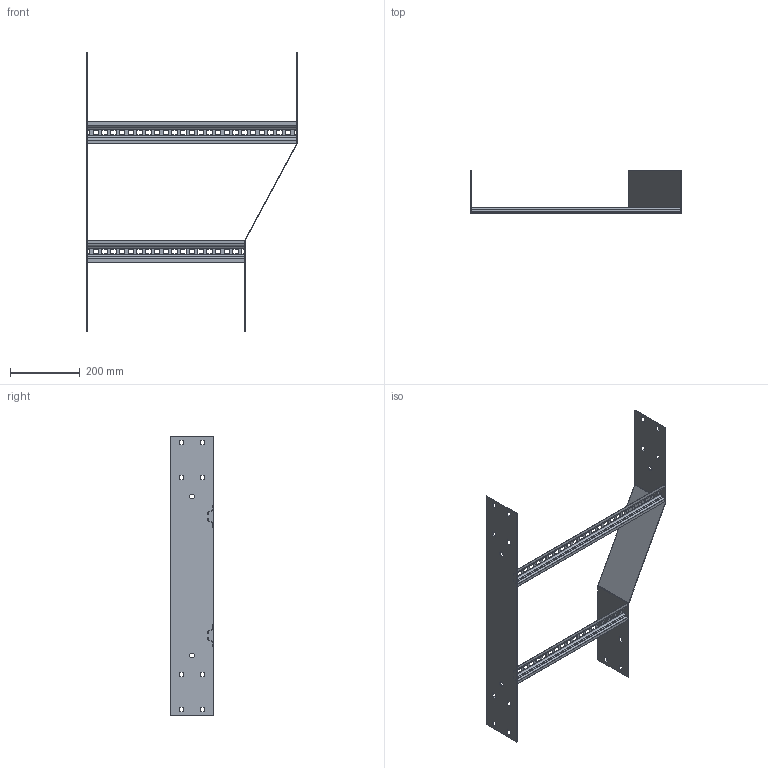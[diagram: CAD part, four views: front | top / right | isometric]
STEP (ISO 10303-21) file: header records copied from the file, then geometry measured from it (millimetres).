
FILE_DESCRIPTION (( 'STEP AP203' ), '1' );
FILE_NAME ('N3 LHR600450.STEP', '2024-08-27T06:18:58', ( '' ), ( '' ), 'SwSTEP 2.0', 'SolidWorks 2023', '' );
FILE_SCHEMA (( 'CONFIG_CONTROL_DESIGN' ));
Length unit declared in the file: millimetre
Products named in the file (5): N3 Back Plate_800; Ladder Rung_Ladder Rung -  450mm; N3 Reducer side plate_LHR450x600; Ladder Rung_Ladder Rung -  600mm; N3 LHR600450
Assembly tree (4 placements, depth 2):
  N3 LHR600450
    N3 Reducer side plate_LHR450x600
    Ladder Rung_Ladder Rung -  450mm
    Ladder Rung_Ladder Rung -  600mm
    N3 Back Plate_800
Bounding box: 604 x 124 x 800 mm (x, y, z)
Volume: 512338.9 mm3; surface area: 557429.1 mm2
Topology: 4 solids, 4 shells, 352 faces, 952 edges, 608 vertices
Faces by surface type: plane 324, cylinder 28
Entity records: 11535 total; most frequent: CARTESIAN_POINT 1919, ORIENTED_EDGE 1904, DIRECTION 1726, EDGE_CURVE 952, VECTOR 896, LINE 896, VERTEX_POINT 608, EDGE_LOOP 472
